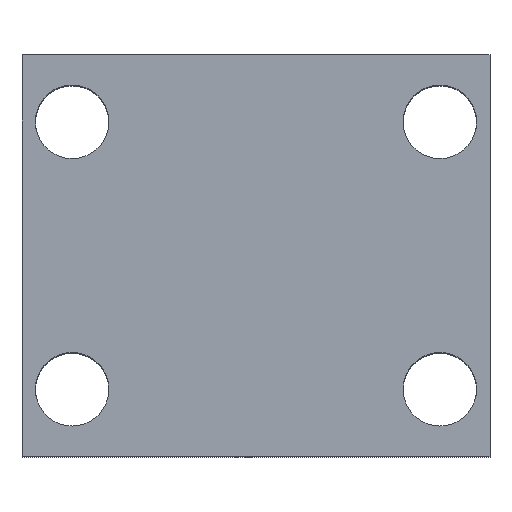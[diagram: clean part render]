
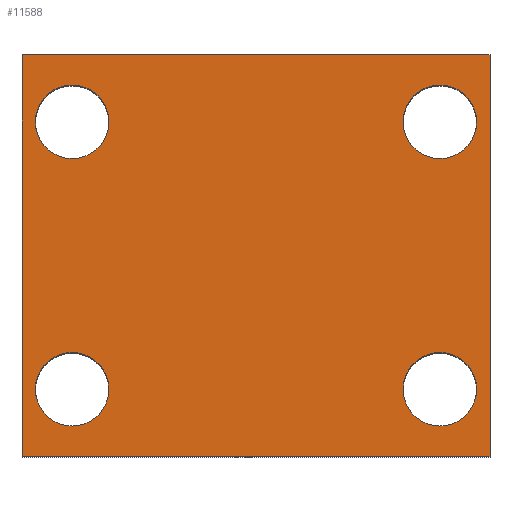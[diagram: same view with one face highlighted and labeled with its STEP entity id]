
A CAD part, top view. The second image highlights one B-rep face of the part: STEP entity #11588.
In plain terms, the highlighted planar face has unit normal (0, 0, 1).
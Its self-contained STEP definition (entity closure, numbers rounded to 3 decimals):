
#252 = ORIENTED_EDGE ( 'NONE', *, *, #13796, .T. ) ;
#263 = CARTESIAN_POINT ( 'NONE',  ( -66., 100., 77.5 ) ) ;
#266 = EDGE_CURVE ( 'NONE', #10466, #12084, #1774, .T. ) ;
#426 = AXIS2_PLACEMENT_3D ( 'NONE', #6558, #15984, #7888 ) ;
#434 = FACE_BOUND ( 'NONE', #10900, .T. ) ;
#626 = EDGE_LOOP ( 'NONE', ( #252, #4603, #12990, #5957 ) ) ;
#725 = CARTESIAN_POINT ( 'NONE',  ( 70., 120., 77.5 ) ) ;
#854 = CIRCLE ( 'NONE', #4329, 11. ) ;
#880 = VERTEX_POINT ( 'NONE', #725 ) ;
#1329 = CIRCLE ( 'NONE', #2483, 11. ) ;
#1371 = DIRECTION ( 'NONE',  ( 0., 0., -1. ) ) ;
#1390 = DIRECTION ( 'NONE',  ( -1., 0., 0. ) ) ;
#1413 = VERTEX_POINT ( 'NONE', #1650 ) ;
#1548 = LINE ( 'NONE', #6304, #5225 ) ;
#1650 = CARTESIAN_POINT ( 'NONE',  ( -70., 0., 77.5 ) ) ;
#1652 = ORIENTED_EDGE ( 'NONE', *, *, #11052, .T. ) ;
#1724 = CARTESIAN_POINT ( 'NONE',  ( -70., 120., 77.5 ) ) ;
#1754 = DIRECTION ( 'NONE',  ( -1., 0., 0. ) ) ;
#1762 = DIRECTION ( 'NONE',  ( 1., 0., 0. ) ) ;
#1774 = CIRCLE ( 'NONE', #16747, 11. ) ;
#2034 = DIRECTION ( 'NONE',  ( 0., 0., -1. ) ) ;
#2262 = CARTESIAN_POINT ( 'NONE',  ( 44., 100., 77.5 ) ) ;
#2328 = DIRECTION ( 'NONE',  ( 0., 0., -1. ) ) ;
#2483 = AXIS2_PLACEMENT_3D ( 'NONE', #10107, #2034, #11477 ) ;
#2940 = FACE_BOUND ( 'NONE', #7066, .T. ) ;
#3186 = CARTESIAN_POINT ( 'NONE',  ( -55., 20., 77.5 ) ) ;
#3317 = VECTOR ( 'NONE', #16510, 1000. ) ;
#3355 = VERTEX_POINT ( 'NONE', #4783 ) ;
#3396 = FACE_BOUND ( 'NONE', #14380, .T. ) ;
#3560 = LINE ( 'NONE', #4552, #13828 ) ;
#3623 = ORIENTED_EDGE ( 'NONE', *, *, #11079, .T. ) ;
#3792 = EDGE_CURVE ( 'NONE', #11645, #10380, #9303, .T. ) ;
#4059 = CARTESIAN_POINT ( 'NONE',  ( 66., 20., 77.5 ) ) ;
#4329 = AXIS2_PLACEMENT_3D ( 'NONE', #10388, #2328, #11763 ) ;
#4552 = CARTESIAN_POINT ( 'NONE',  ( -70., 0., 77.5 ) ) ;
#4603 = ORIENTED_EDGE ( 'NONE', *, *, #8253, .F. ) ;
#4738 = CARTESIAN_POINT ( 'NONE',  ( -66., 20., 77.5 ) ) ;
#4783 = CARTESIAN_POINT ( 'NONE',  ( 70., 0., 77.5 ) ) ;
#4864 = LINE ( 'NONE', #5880, #8792 ) ;
#5225 = VECTOR ( 'NONE', #10340, 1000. ) ;
#5373 = EDGE_CURVE ( 'NONE', #7991, #5791, #12272, .T. ) ;
#5456 = CARTESIAN_POINT ( 'NONE',  ( -70., 120., 77.5 ) ) ;
#5791 = VERTEX_POINT ( 'NONE', #2262 ) ;
#5880 = CARTESIAN_POINT ( 'NONE',  ( 70., 120., 77.5 ) ) ;
#5957 = ORIENTED_EDGE ( 'NONE', *, *, #13557, .T. ) ;
#6304 = CARTESIAN_POINT ( 'NONE',  ( -70., 120., 77.5 ) ) ;
#6340 = EDGE_CURVE ( 'NONE', #17404, #11395, #11403, .T. ) ;
#6422 = CARTESIAN_POINT ( 'NONE',  ( 55., 20., 77.5 ) ) ;
#6558 = CARTESIAN_POINT ( 'NONE',  ( 55., 100., 77.5 ) ) ;
#6560 = ORIENTED_EDGE ( 'NONE', *, *, #14445, .T. ) ;
#6777 = DIRECTION ( 'NONE',  ( -1., 0., 0. ) ) ;
#7066 = EDGE_LOOP ( 'NONE', ( #12962, #9109 ) ) ;
#7086 = CARTESIAN_POINT ( 'NONE',  ( -70., 120., 77.5 ) ) ;
#7226 = DIRECTION ( 'NONE',  ( 0., 0., -1. ) ) ;
#7653 = CIRCLE ( 'NONE', #426, 11. ) ;
#7753 = DIRECTION ( 'NONE',  ( -1., 0., 0. ) ) ;
#7888 = DIRECTION ( 'NONE',  ( -1., 0., 0. ) ) ;
#7991 = VERTEX_POINT ( 'NONE', #16843 ) ;
#8253 = EDGE_CURVE ( 'NONE', #880, #3355, #4864, .T. ) ;
#8311 = CIRCLE ( 'NONE', #15830, 11. ) ;
#8434 = AXIS2_PLACEMENT_3D ( 'NONE', #5456, #14845, #6777 ) ;
#8634 = CARTESIAN_POINT ( 'NONE',  ( -44., 20., 77.5 ) ) ;
#8792 = VECTOR ( 'NONE', #15343, 1000. ) ;
#9047 = ORIENTED_EDGE ( 'NONE', *, *, #266, .T. ) ;
#9109 = ORIENTED_EDGE ( 'NONE', *, *, #5373, .T. ) ;
#9227 = EDGE_LOOP ( 'NONE', ( #12298, #6560 ) ) ;
#9303 = CIRCLE ( 'NONE', #10787, 11. ) ;
#9510 = CARTESIAN_POINT ( 'NONE',  ( 55., 20., 77.5 ) ) ;
#9522 = DIRECTION ( 'NONE',  ( 0., 0., -1. ) ) ;
#9760 = AXIS2_PLACEMENT_3D ( 'NONE', #15299, #7226, #16653 ) ;
#10107 = CARTESIAN_POINT ( 'NONE',  ( -55., 100., 77.5 ) ) ;
#10340 = DIRECTION ( 'NONE',  ( 0., -1., 0. ) ) ;
#10380 = VERTEX_POINT ( 'NONE', #4059 ) ;
#10388 = CARTESIAN_POINT ( 'NONE',  ( -55., 20., 77.5 ) ) ;
#10466 = VERTEX_POINT ( 'NONE', #8634 ) ;
#10787 = AXIS2_PLACEMENT_3D ( 'NONE', #6422, #15853, #7753 ) ;
#10889 = DIRECTION ( 'NONE',  ( -1., 0., 0. ) ) ;
#10900 = EDGE_LOOP ( 'NONE', ( #3623, #9047 ) ) ;
#11052 = EDGE_CURVE ( 'NONE', #11395, #17404, #1329, .T. ) ;
#11079 = EDGE_CURVE ( 'NONE', #12084, #10466, #854, .T. ) ;
#11214 = DIRECTION ( 'NONE',  ( 0., 0., -1. ) ) ;
#11395 = VERTEX_POINT ( 'NONE', #12824 ) ;
#11403 = CIRCLE ( 'NONE', #14524, 11. ) ;
#11477 = DIRECTION ( 'NONE',  ( -1., 0., 0. ) ) ;
#11588 = ADVANCED_FACE ( 'NONE', ( #3396, #434, #16836, #2940, #13244 ), #14788, .F. ) ;
#11645 = VERTEX_POINT ( 'NONE', #13542 ) ;
#11763 = DIRECTION ( 'NONE',  ( -1., 0., 0. ) ) ;
#12084 = VERTEX_POINT ( 'NONE', #4738 ) ;
#12272 = CIRCLE ( 'NONE', #9760, 11. ) ;
#12298 = ORIENTED_EDGE ( 'NONE', *, *, #3792, .T. ) ;
#12824 = CARTESIAN_POINT ( 'NONE',  ( -44., 100., 77.5 ) ) ;
#12962 = ORIENTED_EDGE ( 'NONE', *, *, #16623, .T. ) ;
#12990 = ORIENTED_EDGE ( 'NONE', *, *, #14996, .F. ) ;
#13244 = FACE_OUTER_BOUND ( 'NONE', #626, .T. ) ;
#13542 = CARTESIAN_POINT ( 'NONE',  ( 44., 20., 77.5 ) ) ;
#13557 = EDGE_CURVE ( 'NONE', #15411, #1413, #1548, .T. ) ;
#13587 = LINE ( 'NONE', #7086, #3317 ) ;
#13796 = EDGE_CURVE ( 'NONE', #1413, #3355, #3560, .T. ) ;
#13828 = VECTOR ( 'NONE', #1762, 1000. ) ;
#13858 = ORIENTED_EDGE ( 'NONE', *, *, #6340, .T. ) ;
#14380 = EDGE_LOOP ( 'NONE', ( #13858, #1652 ) ) ;
#14445 = EDGE_CURVE ( 'NONE', #10380, #11645, #8311, .T. ) ;
#14524 = AXIS2_PLACEMENT_3D ( 'NONE', #17611, #9522, #1390 ) ;
#14788 = PLANE ( 'NONE',  #8434 ) ;
#14845 = DIRECTION ( 'NONE',  ( 0., 0., -1. ) ) ;
#14996 = EDGE_CURVE ( 'NONE', #15411, #880, #13587, .T. ) ;
#15299 = CARTESIAN_POINT ( 'NONE',  ( 55., 100., 77.5 ) ) ;
#15343 = DIRECTION ( 'NONE',  ( 0., -1., 0. ) ) ;
#15411 = VERTEX_POINT ( 'NONE', #1724 ) ;
#15830 = AXIS2_PLACEMENT_3D ( 'NONE', #9510, #1371, #10889 ) ;
#15853 = DIRECTION ( 'NONE',  ( 0., 0., -1. ) ) ;
#15984 = DIRECTION ( 'NONE',  ( 0., 0., -1. ) ) ;
#16510 = DIRECTION ( 'NONE',  ( 1., 0., 0. ) ) ;
#16623 = EDGE_CURVE ( 'NONE', #5791, #7991, #7653, .T. ) ;
#16653 = DIRECTION ( 'NONE',  ( -1., 0., 0. ) ) ;
#16747 = AXIS2_PLACEMENT_3D ( 'NONE', #3186, #11214, #1754 ) ;
#16836 = FACE_BOUND ( 'NONE', #9227, .T. ) ;
#16843 = CARTESIAN_POINT ( 'NONE',  ( 66., 100., 77.5 ) ) ;
#17404 = VERTEX_POINT ( 'NONE', #263 ) ;
#17611 = CARTESIAN_POINT ( 'NONE',  ( -55., 100., 77.5 ) ) ;
